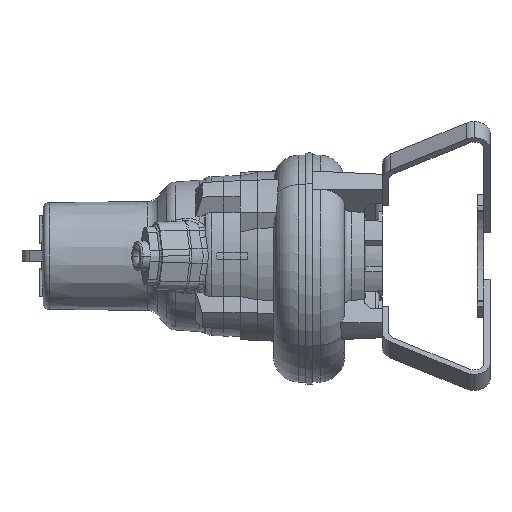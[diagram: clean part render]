
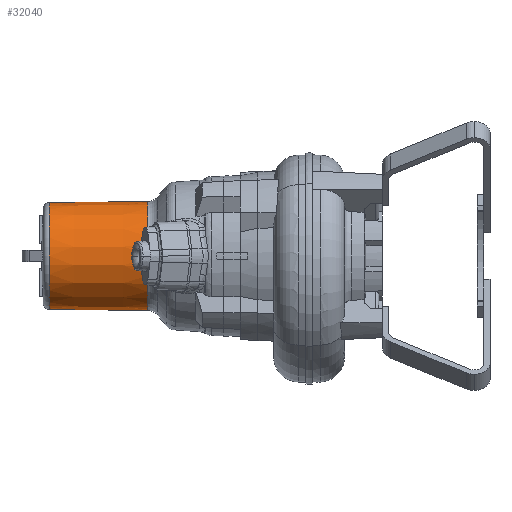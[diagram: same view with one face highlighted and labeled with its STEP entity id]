
A CAD part, left-side view. The second image highlights one B-rep face of the part: STEP entity #32040.
In plain terms, the highlighted conical face has half-angle 0.494 degrees and reference radius 84.5 mm.
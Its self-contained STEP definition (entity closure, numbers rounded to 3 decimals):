
#442 = CARTESIAN_POINT ( 'NONE',  ( -85.871, 123.221, 2.923 ) ) ;
#818 = AXIS2_PLACEMENT_3D ( 'NONE', #23871, #29008, #6252 ) ;
#828 = CARTESIAN_POINT ( 'NONE',  ( -85.871, 123.221, -2.923 ) ) ;
#2394 = CONICAL_SURFACE ( 'NONE', #20938, 84.5, 0.009 ) ;
#2553 = EDGE_CURVE ( 'NONE', #5273, #21522, #4571, .T. ) ;
#2986 = DIRECTION ( 'NONE',  ( 0., -1., -0.009 ) ) ;
#4211 = CARTESIAN_POINT ( 'NONE',  ( -85.871, 123.221, -2.923 ) ) ;
#4232 = EDGE_LOOP ( 'NONE', ( #11823, #25427, #27556, #18433, #30315, #17318 ) ) ;
#4571 = LINE ( 'NONE', #14699, #27346 ) ;
#5250 = DIRECTION ( 'NONE',  ( 0., -1., 0. ) ) ;
#5273 = VERTEX_POINT ( 'NONE', #10700 ) ;
#6252 = DIRECTION ( 'NONE',  ( 0., 0., -1. ) ) ;
#6535 = CARTESIAN_POINT ( 'NONE',  ( -85.916, 123.673, -1.001 ) ) ;
#6697 = CARTESIAN_POINT ( 'NONE',  ( -85.871, 123.221, 2.923 ) ) ;
#8097 = CARTESIAN_POINT ( 'NONE',  ( 0., 288., -84.5 ) ) ;
#8868 = VERTEX_POINT ( 'NONE', #442 ) ;
#9296 = VERTEX_POINT ( 'NONE', #828 ) ;
#10037 = CARTESIAN_POINT ( 'NONE',  ( 0., 288., 0. ) ) ;
#10354 = AXIS2_PLACEMENT_3D ( 'NONE', #22017, #31989, #14047 ) ;
#10700 = CARTESIAN_POINT ( 'NONE',  ( 0., 278.764, 84.58 ) ) ;
#11554 = EDGE_CURVE ( 'NONE', #9296, #8868, #12071, .T. ) ;
#11823 = ORIENTED_EDGE ( 'NONE', *, *, #2553, .F. ) ;
#12071 = B_SPLINE_CURVE_WITH_KNOTS ( 'NONE', 3,
 ( #4211, #31960, #6535, #16509, #31469, #21331, #21510, #6697 ),
 .UNSPECIFIED., .F., .F.,
 ( 4, 2, 2, 4 ),
 ( 0., 0.003, 0.004, 0.006 ),
 .UNSPECIFIED. ) ;
#12673 = DIRECTION ( 'NONE',  ( 0., -1., 0.009 ) ) ;
#12720 = EDGE_CURVE ( 'NONE', #27659, #26320, #18267, .T. ) ;
#12864 = FACE_OUTER_BOUND ( 'NONE', #4232, .T. ) ;
#14047 = DIRECTION ( 'NONE',  ( 0., 0., 1. ) ) ;
#14699 = CARTESIAN_POINT ( 'NONE',  ( 0., 288., 84.5 ) ) ;
#15546 = DIRECTION ( 'NONE',  ( 0., 0., -1. ) ) ;
#16233 = CIRCLE ( 'NONE', #10354, 84.58 ) ;
#16509 = CARTESIAN_POINT ( 'NONE',  ( -85.917, 123.675, 0.482 ) ) ;
#17318 = ORIENTED_EDGE ( 'NONE', *, *, #23779, .T. ) ;
#18267 = LINE ( 'NONE', #8097, #25096 ) ;
#18433 = ORIENTED_EDGE ( 'NONE', *, *, #27909, .T. ) ;
#19217 = CARTESIAN_POINT ( 'NONE',  ( 0., 278.764, -84.58 ) ) ;
#19670 = CIRCLE ( 'NONE', #21271, 85.921 ) ;
#20900 = CARTESIAN_POINT ( 'NONE',  ( 0., 123.221, 85.921 ) ) ;
#20938 = AXIS2_PLACEMENT_3D ( 'NONE', #10037, #5250, #15546 ) ;
#21271 = AXIS2_PLACEMENT_3D ( 'NONE', #23984, #23017, #26465 ) ;
#21331 = CARTESIAN_POINT ( 'NONE',  ( -85.897, 123.483, 1.963 ) ) ;
#21510 = CARTESIAN_POINT ( 'NONE',  ( -85.886, 123.369, 2.446 ) ) ;
#21522 = VERTEX_POINT ( 'NONE', #20900 ) ;
#22017 = CARTESIAN_POINT ( 'NONE',  ( 0., 278.764, 0. ) ) ;
#23017 = DIRECTION ( 'NONE',  ( 0., 1., 0. ) ) ;
#23779 = EDGE_CURVE ( 'NONE', #8868, #21522, #26797, .T. ) ;
#23871 = CARTESIAN_POINT ( 'NONE',  ( 0., 123.221, 0. ) ) ;
#23984 = CARTESIAN_POINT ( 'NONE',  ( 0., 123.221, 0. ) ) ;
#25096 = VECTOR ( 'NONE', #2986, 1000. ) ;
#25427 = ORIENTED_EDGE ( 'NONE', *, *, #32283, .T. ) ;
#26320 = VERTEX_POINT ( 'NONE', #26506 ) ;
#26465 = DIRECTION ( 'NONE',  ( 0., 0., -1. ) ) ;
#26506 = CARTESIAN_POINT ( 'NONE',  ( 0., 123.221, -85.921 ) ) ;
#26797 = CIRCLE ( 'NONE', #818, 85.921 ) ;
#27346 = VECTOR ( 'NONE', #12673, 1000. ) ;
#27556 = ORIENTED_EDGE ( 'NONE', *, *, #12720, .T. ) ;
#27659 = VERTEX_POINT ( 'NONE', #19217 ) ;
#27909 = EDGE_CURVE ( 'NONE', #26320, #9296, #19670, .T. ) ;
#29008 = DIRECTION ( 'NONE',  ( 0., 1., 0. ) ) ;
#30315 = ORIENTED_EDGE ( 'NONE', *, *, #11554, .T. ) ;
#31469 = CARTESIAN_POINT ( 'NONE',  ( -85.913, 123.636, 0.983 ) ) ;
#31960 = CARTESIAN_POINT ( 'NONE',  ( -85.901, 123.517, -1.97 ) ) ;
#31989 = DIRECTION ( 'NONE',  ( 0., -1., 0. ) ) ;
#32040 = ADVANCED_FACE ( 'NONE', ( #12864 ), #2394, .T. ) ;
#32283 = EDGE_CURVE ( 'NONE', #5273, #27659, #16233, .T. ) ;
